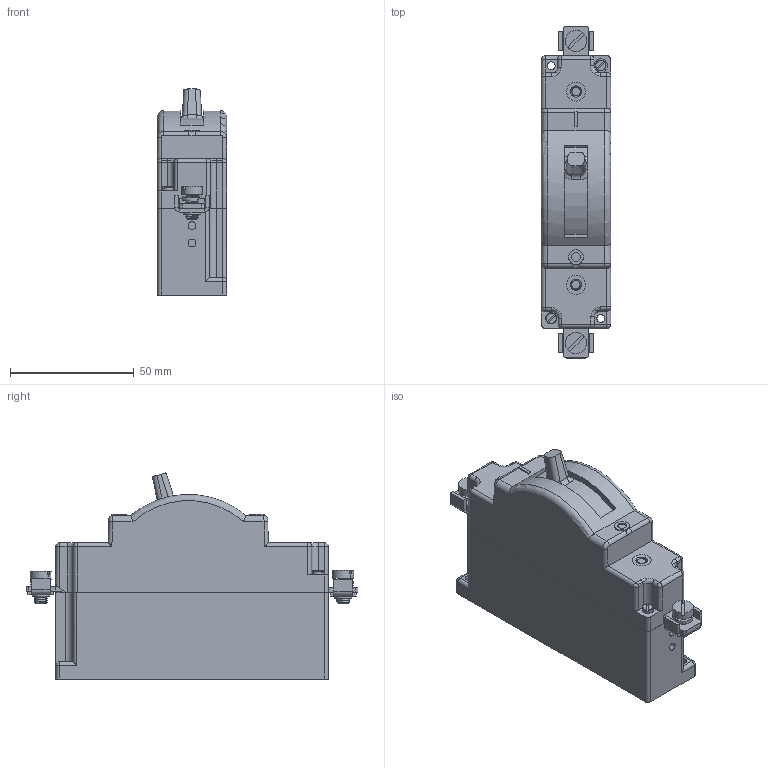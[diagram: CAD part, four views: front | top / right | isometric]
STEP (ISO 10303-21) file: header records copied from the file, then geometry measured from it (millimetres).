
FILE_DESCRIPTION (( 'STEP AP203' ), '1' );
FILE_NAME ('ﾀ63-ﾌ.STEP', '2014-06-11T07:30:37', ( 'admin' ), ( 'Microsoft' ), 'SwSTEP 2.0', 'SolidWorks 2007', '' );
FILE_SCHEMA (( 'CONFIG_CONTROL_DESIGN' ));
Length unit declared in the file: millimetre
Products named in the file (1): ﾀ63-ﾌ
Bounding box: 28 x 134 x 83.18 mm (x, y, z)
Surface area: 40793.2 mm2 (no closed solid volume)
Topology: 0 solids, 19 shells, 722 faces, 2354 edges, 1605 vertices
Faces by surface type: plane 368, bspline 193, cylinder 122, torus 17, cone 12, sphere 10
Entity records: 46867 total; most frequent: CARTESIAN_POINT 28220, ORIENTED_EDGE 4004, DIRECTION 3066, EDGE_CURVE 2344, VERTEX_POINT 1605, VECTOR 1418, LINE 1418, AXIS2_PLACEMENT_3D 824
